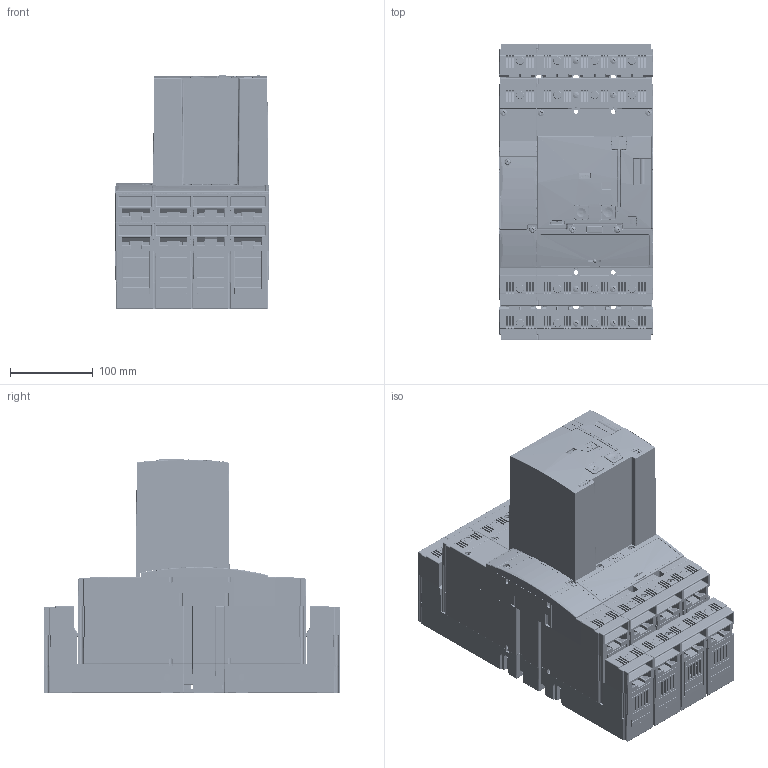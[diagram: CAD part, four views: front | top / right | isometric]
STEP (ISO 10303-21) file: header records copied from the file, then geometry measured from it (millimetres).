
FILE_DESCRIPTION (( 'STEP AP214' ), '1' );
FILE_NAME ('BH630__405_406__SE-BH__MP-BH__ZO-4.step', '2011-07-29T09:00:03', ( 'Radek Veselý' ), ( 'Siemens and Partners' ), 'SwSTEP 2.0', 'SolidWorks 2006303', '' );
FILE_SCHEMA (( 'AUTOMOTIVE_DESIGN' ));
Length unit declared in the file: millimetre
Products named in the file (1): BH630__405_406__SE-BH__MP-BH__ZO-4
Bounding box: 185 x 358 x 281.97 mm (x, y, z)
Volume: 2931043.6 mm3; surface area: 1804349.3 mm2
Topology: 54 solids, 54 shells, 19303 faces, 52329 edges, 33209 vertices
Faces by surface type: plane 12011, cylinder 4840, bspline 912, cone 540, torus 510, sphere 490
Entity records: 851309 total; most frequent: CARTESIAN_POINT 163212, ORIENTED_EDGE 103760, DIRECTION 93120, EDGE_CURVE 51880, VECTOR 36940, LINE 36940, VERTEX_POINT 33195, AXIS2_PLACEMENT_3D 28090
